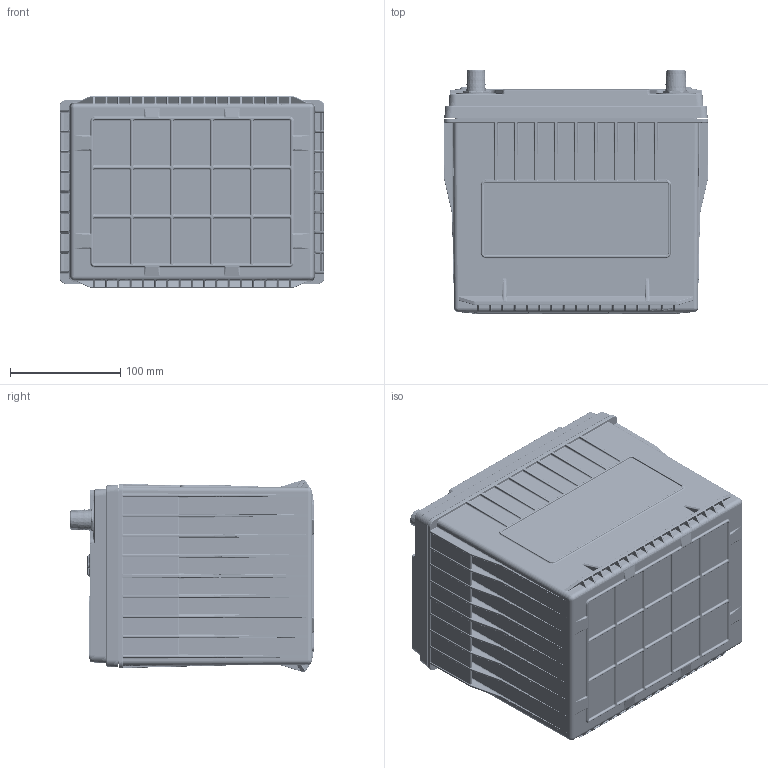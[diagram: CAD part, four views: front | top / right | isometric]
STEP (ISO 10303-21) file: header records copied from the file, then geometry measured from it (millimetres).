
FILE_DESCRIPTION (( 'STEP AP203' ), '1' );
FILE_NAME ('ODP-AGM35.STEP', '2024-03-25T20:38:47', ( '' ), ( '' ), 'SwSTEP 2.0', 'SolidWorks 2022', '' );
FILE_SCHEMA (( 'CONFIG_CONTROL_DESIGN' ));
Products named in the file (1): ODP-AGM35
Bounding box: 240.2 x 220.8 x 173.61 mm (x, y, z)
Volume: 1293770.2 mm3; surface area: 1008877.4 mm2
Topology: 22 solids, 22 shells, 7333 faces, 18187 edges, 10453 vertices
Faces by surface type: cylinder 2729, plane 2075, bspline 1166, torus 724, sphere 417, cone 222
Full cylindrical faces by diameter (mm): 3.175 x32, 3.81 x1, 6.35 x2, 7.62 x1, 7.798 x6, 8.001 x6, 10.795 x6, 10.8 x2, 12.7 x2, 14.884 x2, 17.424 x4, 18.798 x2, 23.317 x4, 28.575 x2, 31.344 x2, 35.941 x2
Entity records: 248902 total; most frequent: CARTESIAN_POINT 91918, ORIENTED_EDGE 34714, DIRECTION 30976, EDGE_CURVE 17357, AXIS2_PLACEMENT_3D 11555, VERTEX_POINT 10332, VECTOR 7866, LINE 7866
